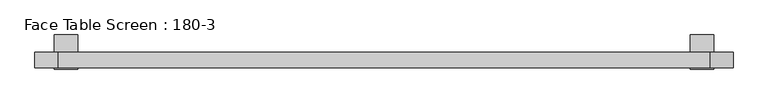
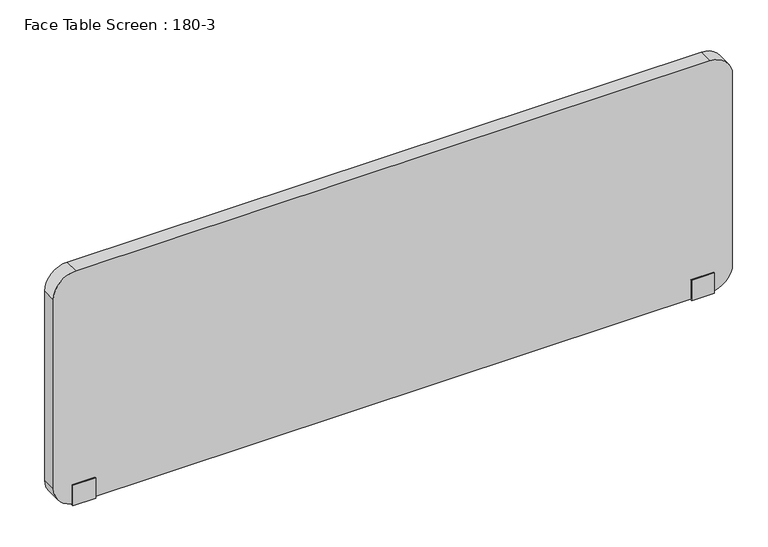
"""IFC4 building model written with IfcOpenShell, lengths in millimetres: furniture geometry, Face Table Screen : 180-3."""

from ifc_helpers import new_model, si_unit, point, frame, frame_2d, origin, place, context, project, spatial, polyline, circle_curve, trimmed, segment, composite_curve, outline, extrude, source, transform, mapped, element, save


def face_table_screen_180_3_3e0c46ab(model_context):
    return source(origin(), model_context, "Body", "SweptSolid", [
        extrude(outline(polyline([(-22.9999947, -156.0), (-22.9999997, -99.0433898), (-20.0, -99.0433898), (-20.0, -153.0), (20.0, -153.0), (20.0, -22.0), (65.0, -22.0), (65.0, -25.0433898), (23.0000062, -25.0433898), (22.9999947, -156.0), (-22.9999947, -156.0)])), frame((790.0, 0.0, 0.0), z_axis=(1.0, 0.0, 0.0), x_axis=(0.0, 1.0, 0.0)), (0.0, 0.0, 1.0), 60.0),
        extrude(outline(polyline([(-22.9999947, -156.0), (-22.9999997, -99.0433898), (-20.0, -99.0433898), (-20.0, -153.0), (20.0, -153.0), (20.0, -22.0), (65.0, -22.0), (65.0, -25.0433898), (23.0000062, -25.0433898), (22.9999947, -156.0), (-22.9999947, -156.0)])), frame((-850.0, 0.0, 0.0), z_axis=(1.0, 0.0, 0.0), x_axis=(0.0, 1.0, 0.0)), (0.0, 0.0, 1.0), 60.0),
        extrude(outline(composite_curve([segment(polyline([(497.0, 840.0), (497.0, -840.0)]), True, "CONTINUOUS"), segment(trimmed(circle_curve(frame_2d((437.0, -840.0)), 60.0), [point((497.0, -840.0))], [point((437.0, -900.0))], False, "CARTESIAN"), True, "CONTINUOUS"), segment(polyline([(437.0, -900.0), (-93.0, -900.0)]), True, "CONTINUOUS"), segment(trimmed(circle_curve(frame_2d((-93.0, -840.0)), 60.0), [point((-93.0, -900.0))], [point((-153.0, -840.0))], False, "CARTESIAN"), True, "CONTINUOUS"), segment(polyline([(-153.0, -840.0), (-153.0, 840.0)]), True, "CONTINUOUS"), segment(trimmed(circle_curve(frame_2d((-93.0, 840.0)), 60.0), [point((-153.0, 840.0))], [point((-93.0, 900.0))], False, "CARTESIAN"), True, "CONTINUOUS"), segment(polyline([(-93.0, 900.0), (437.0, 900.0)]), True, "CONTINUOUS"), segment(trimmed(circle_curve(frame_2d((437.0, 840.0)), 60.0), [point((437.0, 900.0))], [point((497.0, 840.0))], False, "CARTESIAN"), True, "CONTINUOUS")], self_intersect=False)), frame((0.0, -20.0, 0.0), z_axis=(0.0, 1.0, 0.0), x_axis=(0.0, 0.0, 1.0)), (0.0, 0.0, 1.0), 40.0),
    ])


if __name__ == "__main__":
    model = new_model("IFC4")
    model_context = context("Model", 3, world=origin())
    ifc_project = project(units=[si_unit("LENGTHUNIT", "METRE", prefix="MILLI")], contexts=[model_context])
    site = spatial("IfcSite", under=ifc_project)
    building = spatial("IfcBuilding", under=site)
    placement = place(None, origin())
    face_table_screen_180_3_shape = face_table_screen_180_3_3e0c46ab(model_context)
    element("IfcFurniture", 1, ObjectType="Face Table Screen : 180-3", at=placement, inside=building, context=model_context, shape_type="MappedRepresentation", body=[
        mapped(face_table_screen_180_3_shape, transform((0.0, 0.0, 0.0), x_axis=(1.0, 0.0, 0.0), y_axis=(0.0, 1.0, 0.0), z_axis=(0.0, 0.0, 1.0))),
    ])
    save(model, "model.ifc")
